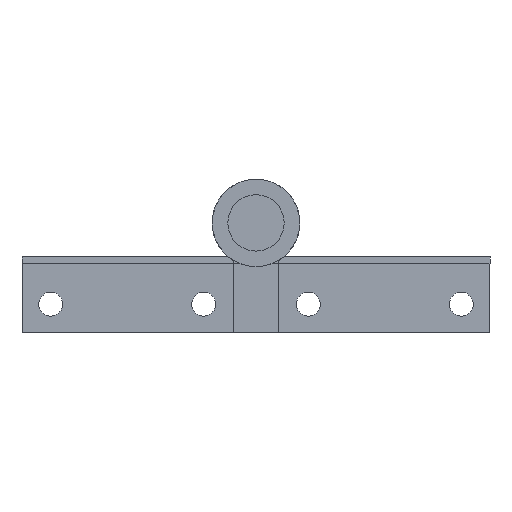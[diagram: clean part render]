
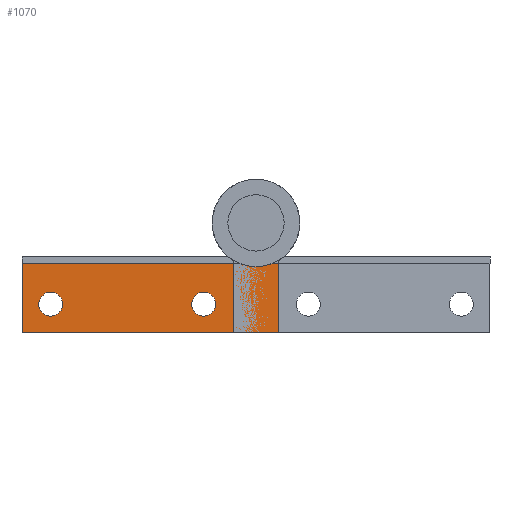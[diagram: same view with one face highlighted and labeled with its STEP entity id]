
A CAD part, front view. The second image highlights one B-rep face of the part: STEP entity #1070.
In plain terms, the highlighted planar face has unit normal (0, -1, 0).
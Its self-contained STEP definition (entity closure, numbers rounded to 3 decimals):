
#100 = EDGE_LOOP ( 'NONE', ( #1734, #1735 ) ) ;
#102 = EDGE_LOOP ( 'NONE', ( #1736, #1737 ) ) ;
#103 = EDGE_LOOP ( 'NONE', ( #1738, #1739, #1740, #1741 ) ) ;
#235 = CARTESIAN_POINT ( 'NONE',  ( 4.75, 458.2, -23. ) ) ;
#239 = CARTESIAN_POINT ( 'NONE',  ( -8.45, 458.2, -17. ) ) ;
#240 = CARTESIAN_POINT ( 'NONE',  ( 4.75, 458.2, -8.5 ) ) ;
#242 = CARTESIAN_POINT ( 'NONE',  ( -13.45, 458.2, -17. ) ) ;
#249 = CARTESIAN_POINT ( 'NONE',  ( -40.45, 458.2, -17. ) ) ;
#251 = CARTESIAN_POINT ( 'NONE',  ( -45.45, 458.2, -17. ) ) ;
#284 = CARTESIAN_POINT ( 'NONE',  ( -48.95, 458.2, -8.5 ) ) ;
#285 = CARTESIAN_POINT ( 'NONE',  ( -48.95, 458.2, -23. ) ) ;
#373 = VERTEX_POINT ( 'NONE', #285 ) ;
#374 = VERTEX_POINT ( 'NONE', #284 ) ;
#407 = VERTEX_POINT ( 'NONE', #251 ) ;
#409 = VERTEX_POINT ( 'NONE', #249 ) ;
#416 = VERTEX_POINT ( 'NONE', #242 ) ;
#418 = VERTEX_POINT ( 'NONE', #240 ) ;
#419 = VERTEX_POINT ( 'NONE', #239 ) ;
#423 = VERTEX_POINT ( 'NONE', #235 ) ;
#492 = PLANE ( 'NONE',  #1960 ) ;
#493 = CARTESIAN_POINT ( 'NONE',  ( 9.15, 458.2, -23. ) ) ;
#494 = DIRECTION ( 'NONE',  ( 0., 1., 0. ) ) ;
#495 = DIRECTION ( 'NONE',  ( 1., 0., 0. ) ) ;
#647 = CARTESIAN_POINT ( 'NONE',  ( 9.15, 458.2, -8.5 ) ) ;
#649 = DIRECTION ( 'NONE',  ( -1., 0., 0. ) ) ;
#769 = CARTESIAN_POINT ( 'NONE',  ( -42.95, 458.2, -17. ) ) ;
#778 = DIRECTION ( 'NONE',  ( 0., 1., 0. ) ) ;
#779 = DIRECTION ( 'NONE',  ( 1., 0., 0. ) ) ;
#782 = CARTESIAN_POINT ( 'NONE',  ( -10.95, 458.2, -17. ) ) ;
#795 = DIRECTION ( 'NONE',  ( 0., 1., 0. ) ) ;
#796 = DIRECTION ( 'NONE',  ( 1., 0., 0. ) ) ;
#812 = CARTESIAN_POINT ( 'NONE',  ( 9.15, 458.2, -23. ) ) ;
#813 = DIRECTION ( 'NONE',  ( -1., 0., 0. ) ) ;
#818 = CARTESIAN_POINT ( 'NONE',  ( -48.95, 458.2, -23. ) ) ;
#828 = DIRECTION ( 'NONE',  ( 0., 0., -1. ) ) ;
#875 = CARTESIAN_POINT ( 'NONE',  ( 4.75, 458.2, -23. ) ) ;
#876 = DIRECTION ( 'NONE',  ( 0., 0., -1. ) ) ;
#895 = CARTESIAN_POINT ( 'NONE',  ( -10.95, 458.2, -17. ) ) ;
#896 = DIRECTION ( 'NONE',  ( 0., 1., 0. ) ) ;
#897 = DIRECTION ( 'NONE',  ( 1., 0., 0. ) ) ;
#913 = CARTESIAN_POINT ( 'NONE',  ( -42.95, 458.2, -17. ) ) ;
#914 = DIRECTION ( 'NONE',  ( 0., 1., 0. ) ) ;
#915 = DIRECTION ( 'NONE',  ( 1., 0., 0. ) ) ;
#1070 = ADVANCED_FACE ( 'NONE', ( #1521, #1520, #1516 ), #492, .F. ) ;
#1116 = AXIS2_PLACEMENT_3D ( 'NONE', #895, #896, #897 ) ;
#1128 = AXIS2_PLACEMENT_3D ( 'NONE', #913, #914, #915 ) ;
#1200 = CIRCLE ( 'NONE', #1128, 2.5 ) ;
#1213 = CIRCLE ( 'NONE', #1116, 2.5 ) ;
#1225 = VECTOR ( 'NONE', #876, 1000. ) ;
#1226 = LINE ( 'NONE', #875, #1225 ) ;
#1269 = VECTOR ( 'NONE', #828, 1000. ) ;
#1273 = LINE ( 'NONE', #818, #1269 ) ;
#1288 = VECTOR ( 'NONE', #813, 1000. ) ;
#1291 = CIRCLE ( 'NONE', #1932, 2.5 ) ;
#1295 = LINE ( 'NONE', #812, #1288 ) ;
#1304 = CIRCLE ( 'NONE', #2076, 2.5 ) ;
#1427 = LINE ( 'NONE', #647, #1463 ) ;
#1463 = VECTOR ( 'NONE', #649, 1000. ) ;
#1516 = FACE_OUTER_BOUND ( 'NONE', #103, .T. ) ;
#1520 = FACE_BOUND ( 'NONE', #102, .T. ) ;
#1521 = FACE_BOUND ( 'NONE', #100, .T. ) ;
#1734 = ORIENTED_EDGE ( 'NONE', *, *, #1966, .T. ) ;
#1735 = ORIENTED_EDGE ( 'NONE', *, *, #2032, .T. ) ;
#1736 = ORIENTED_EDGE ( 'NONE', *, *, #1947, .T. ) ;
#1737 = ORIENTED_EDGE ( 'NONE', *, *, #2039, .T. ) ;
#1738 = ORIENTED_EDGE ( 'NONE', *, *, #1853, .T. ) ;
#1739 = ORIENTED_EDGE ( 'NONE', *, *, #1979, .T. ) ;
#1740 = ORIENTED_EDGE ( 'NONE', *, *, #1973, .F. ) ;
#1741 = ORIENTED_EDGE ( 'NONE', *, *, #2014, .F. ) ;
#1853 = EDGE_CURVE ( 'NONE', #418, #374, #1427, .T. ) ;
#1932 = AXIS2_PLACEMENT_3D ( 'NONE', #782, #795, #796 ) ;
#1947 = EDGE_CURVE ( 'NONE', #407, #409, #1304, .T. ) ;
#1960 = AXIS2_PLACEMENT_3D ( 'NONE', #493, #494, #495 ) ;
#1966 = EDGE_CURVE ( 'NONE', #416, #419, #1291, .T. ) ;
#1973 = EDGE_CURVE ( 'NONE', #423, #373, #1295, .T. ) ;
#1979 = EDGE_CURVE ( 'NONE', #374, #373, #1273, .T. ) ;
#2014 = EDGE_CURVE ( 'NONE', #418, #423, #1226, .T. ) ;
#2032 = EDGE_CURVE ( 'NONE', #419, #416, #1213, .T. ) ;
#2039 = EDGE_CURVE ( 'NONE', #409, #407, #1200, .T. ) ;
#2076 = AXIS2_PLACEMENT_3D ( 'NONE', #769, #778, #779 ) ;
